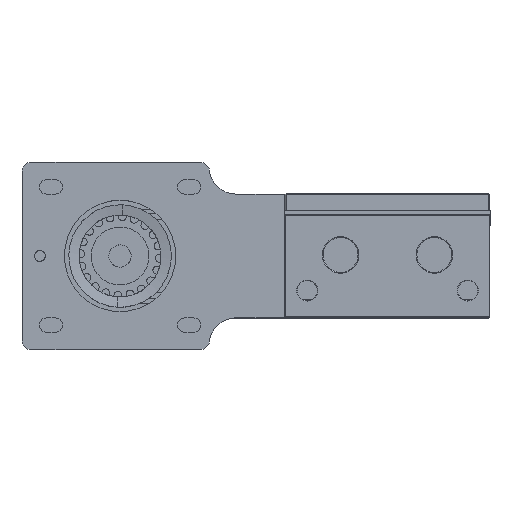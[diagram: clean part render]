
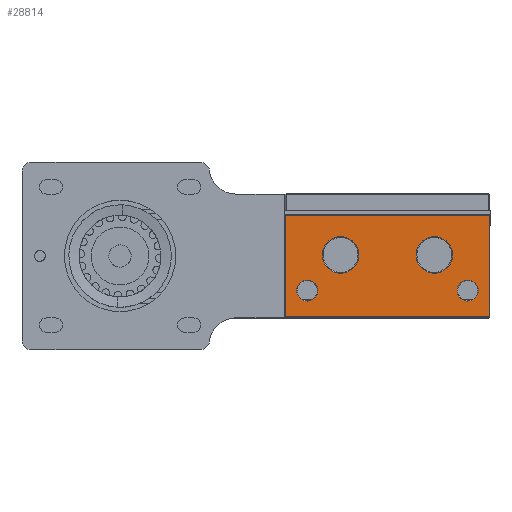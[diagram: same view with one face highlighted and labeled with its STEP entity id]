
A CAD part, top view. The second image highlights one B-rep face of the part: STEP entity #28814.
In plain terms, the highlighted planar face has unit normal (0, 0, 1).
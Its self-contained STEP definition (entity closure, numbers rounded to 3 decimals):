
#166 = AXIS2_PLACEMENT_3D ( 'NONE', #21744, #70114, #28726 ) ;
#881 = DIRECTION ( 'NONE',  ( -1., 0., 0. ) ) ;
#934 = VECTOR ( 'NONE', #63925, 1000. ) ;
#1689 = DIRECTION ( 'NONE',  ( 0., 0., -1. ) ) ;
#1759 = CARTESIAN_POINT ( 'NONE',  ( 18., 6., 134. ) ) ;
#2442 = AXIS2_PLACEMENT_3D ( 'NONE', #61873, #20404, #68748 ) ;
#2953 = CARTESIAN_POINT ( 'NONE',  ( -22.9, 22.9, 134. ) ) ;
#3154 = FACE_BOUND ( 'NONE', #15725, .T. ) ;
#3939 = EDGE_CURVE ( 'NONE', #79689, #40994, #37863, .T. ) ;
#5758 = VERTEX_POINT ( 'NONE', #64883 ) ;
#6315 = DIRECTION ( 'NONE',  ( 0., 0., -1. ) ) ;
#6466 = DIRECTION ( 'NONE',  ( 0., -1., 0. ) ) ;
#8748 = DIRECTION ( 'NONE',  ( -1., 0., 0. ) ) ;
#9223 = CARTESIAN_POINT ( 'NONE',  ( -22.9, 0.1, 134. ) ) ;
#9787 = ORIENTED_EDGE ( 'NONE', *, *, #25403, .T. ) ;
#11479 = CARTESIAN_POINT ( 'NONE',  ( -14.6, 14., 134. ) ) ;
#12789 = CIRCLE ( 'NONE', #65763, 4.1 ) ;
#15529 = CARTESIAN_POINT ( 'NONE',  ( -23., 22.9, 134. ) ) ;
#15725 = EDGE_LOOP ( 'NONE', ( #55821, #67135 ) ) ;
#16788 = ORIENTED_EDGE ( 'NONE', *, *, #46517, .T. ) ;
#16829 = CIRCLE ( 'NONE', #36669, 4.1 ) ;
#17140 = EDGE_CURVE ( 'NONE', #73987, #33271, #57789, .T. ) ;
#17289 = FACE_BOUND ( 'NONE', #55793, .T. ) ;
#18242 = LINE ( 'NONE', #25955, #34539 ) ;
#18604 = LINE ( 'NONE', #69072, #71591 ) ;
#20404 = DIRECTION ( 'NONE',  ( 0., 0., -1. ) ) ;
#21103 = ORIENTED_EDGE ( 'NONE', *, *, #74679, .T. ) ;
#21744 = CARTESIAN_POINT ( 'NONE',  ( -18., 6., 134. ) ) ;
#21762 = ORIENTED_EDGE ( 'NONE', *, *, #26811, .T. ) ;
#22167 = EDGE_CURVE ( 'NONE', #50779, #47584, #18242, .T. ) ;
#24496 = CARTESIAN_POINT ( 'NONE',  ( -18., 6., 134. ) ) ;
#25403 = EDGE_CURVE ( 'NONE', #33271, #73987, #54520, .T. ) ;
#25955 = CARTESIAN_POINT ( 'NONE',  ( 23., 0.1, 134. ) ) ;
#26040 = CARTESIAN_POINT ( 'NONE',  ( 18., 6., 134. ) ) ;
#26811 = EDGE_CURVE ( 'NONE', #40994, #50779, #18604, .T. ) ;
#27603 = CARTESIAN_POINT ( 'NONE',  ( 10.5, 14., 134. ) ) ;
#27998 = CARTESIAN_POINT ( 'NONE',  ( -6.4, 14., 134. ) ) ;
#28512 = PLANE ( 'NONE',  #41722 ) ;
#28726 = DIRECTION ( 'NONE',  ( -1., 0., 0. ) ) ;
#28814 = ADVANCED_FACE ( 'NONE', ( #17289, #70297, #3154, #88654, #51993 ), #28512, .F. ) ;
#31119 = CARTESIAN_POINT ( 'NONE',  ( 20.35, 6., 134. ) ) ;
#31481 = DIRECTION ( 'NONE',  ( -1., 0., 0. ) ) ;
#33021 = DIRECTION ( 'NONE',  ( -1., 0., 0. ) ) ;
#33271 = VERTEX_POINT ( 'NONE', #76238 ) ;
#34539 = VECTOR ( 'NONE', #81254, 1000. ) ;
#34587 = DIRECTION ( 'NONE',  ( -1., 0., 0. ) ) ;
#36669 = AXIS2_PLACEMENT_3D ( 'NONE', #43295, #1689, #50245 ) ;
#36823 = EDGE_CURVE ( 'NONE', #70399, #49054, #51049, .T. ) ;
#37863 = LINE ( 'NONE', #15529, #934 ) ;
#38167 = ORIENTED_EDGE ( 'NONE', *, *, #3939, .T. ) ;
#38534 = VERTEX_POINT ( 'NONE', #38701 ) ;
#38701 = CARTESIAN_POINT ( 'NONE',  ( -20.35, 6., 134. ) ) ;
#40994 = VERTEX_POINT ( 'NONE', #2953 ) ;
#41722 = AXIS2_PLACEMENT_3D ( 'NONE', #42196, #42488, #881 ) ;
#42196 = CARTESIAN_POINT ( 'NONE',  ( -23., 0., 134. ) ) ;
#42488 = DIRECTION ( 'NONE',  ( 0., 0., -1. ) ) ;
#43259 = CARTESIAN_POINT ( 'NONE',  ( 22.9, 0.1, 134. ) ) ;
#43295 = CARTESIAN_POINT ( 'NONE',  ( -10.5, 14., 134. ) ) ;
#45109 = CARTESIAN_POINT ( 'NONE',  ( 22.9, 23., 134. ) ) ;
#45393 = ORIENTED_EDGE ( 'NONE', *, *, #17140, .T. ) ;
#46091 = EDGE_CURVE ( 'NONE', #49054, #70399, #16829, .T. ) ;
#46458 = CARTESIAN_POINT ( 'NONE',  ( 22.9, 22.9, 134. ) ) ;
#46517 = EDGE_CURVE ( 'NONE', #5758, #63438, #84933, .T. ) ;
#47527 = CARTESIAN_POINT ( 'NONE',  ( 14.6, 14., 134. ) ) ;
#47584 = VERTEX_POINT ( 'NONE', #43259 ) ;
#47870 = CARTESIAN_POINT ( 'NONE',  ( 10.5, 14., 134. ) ) ;
#47991 = CARTESIAN_POINT ( 'NONE',  ( -15.65, 6., 134. ) ) ;
#48494 = EDGE_CURVE ( 'NONE', #38534, #69751, #77469, .T. ) ;
#49054 = VERTEX_POINT ( 'NONE', #27998 ) ;
#50245 = DIRECTION ( 'NONE',  ( -1., 0., 0. ) ) ;
#50306 = DIRECTION ( 'NONE',  ( 0., 0., -1. ) ) ;
#50779 = VERTEX_POINT ( 'NONE', #9223 ) ;
#51049 = CIRCLE ( 'NONE', #2442, 4.1 ) ;
#51993 = FACE_OUTER_BOUND ( 'NONE', #61618, .T. ) ;
#52075 = DIRECTION ( 'NONE',  ( 0., 1., 0. ) ) ;
#53492 = AXIS2_PLACEMENT_3D ( 'NONE', #27603, #75992, #34587 ) ;
#53730 = ORIENTED_EDGE ( 'NONE', *, *, #56330, .T. ) ;
#54271 = ORIENTED_EDGE ( 'NONE', *, *, #22167, .T. ) ;
#54520 = CIRCLE ( 'NONE', #66383, 2.35 ) ;
#54533 = CIRCLE ( 'NONE', #166, 2.35 ) ;
#54806 = DIRECTION ( 'NONE',  ( -1., 0., 0. ) ) ;
#55793 = EDGE_LOOP ( 'NONE', ( #21103, #16788 ) ) ;
#55821 = ORIENTED_EDGE ( 'NONE', *, *, #59334, .T. ) ;
#56330 = EDGE_CURVE ( 'NONE', #47584, #79689, #81045, .T. ) ;
#57789 = CIRCLE ( 'NONE', #64241, 2.35 ) ;
#59334 = EDGE_CURVE ( 'NONE', #69751, #38534, #54533, .T. ) ;
#61618 = EDGE_LOOP ( 'NONE', ( #38167, #21762, #54271, #53730 ) ) ;
#61620 = EDGE_LOOP ( 'NONE', ( #45393, #9787 ) ) ;
#61873 = CARTESIAN_POINT ( 'NONE',  ( -10.5, 14., 134. ) ) ;
#62680 = VECTOR ( 'NONE', #52075, 1000. ) ;
#63438 = VERTEX_POINT ( 'NONE', #47527 ) ;
#63925 = DIRECTION ( 'NONE',  ( -1., 0., 0. ) ) ;
#64241 = AXIS2_PLACEMENT_3D ( 'NONE', #26040, #74425, #33021 ) ;
#64883 = CARTESIAN_POINT ( 'NONE',  ( 6.4, 14., 134. ) ) ;
#65763 = AXIS2_PLACEMENT_3D ( 'NONE', #47870, #6315, #54806 ) ;
#66383 = AXIS2_PLACEMENT_3D ( 'NONE', #1759, #50306, #8748 ) ;
#67135 = ORIENTED_EDGE ( 'NONE', *, *, #48494, .T. ) ;
#68748 = DIRECTION ( 'NONE',  ( -1., 0., 0. ) ) ;
#69072 = CARTESIAN_POINT ( 'NONE',  ( -22.9, 0., 134. ) ) ;
#69751 = VERTEX_POINT ( 'NONE', #47991 ) ;
#70114 = DIRECTION ( 'NONE',  ( 0., 0., -1. ) ) ;
#70220 = ORIENTED_EDGE ( 'NONE', *, *, #36823, .T. ) ;
#70297 = FACE_BOUND ( 'NONE', #80129, .T. ) ;
#70399 = VERTEX_POINT ( 'NONE', #11479 ) ;
#71591 = VECTOR ( 'NONE', #6466, 1000. ) ;
#72858 = DIRECTION ( 'NONE',  ( 0., 0., -1. ) ) ;
#73987 = VERTEX_POINT ( 'NONE', #31119 ) ;
#74425 = DIRECTION ( 'NONE',  ( 0., 0., -1. ) ) ;
#74679 = EDGE_CURVE ( 'NONE', #63438, #5758, #12789, .T. ) ;
#75992 = DIRECTION ( 'NONE',  ( 0., 0., -1. ) ) ;
#76238 = CARTESIAN_POINT ( 'NONE',  ( 15.65, 6., 134. ) ) ;
#77469 = CIRCLE ( 'NONE', #78518, 2.35 ) ;
#78518 = AXIS2_PLACEMENT_3D ( 'NONE', #24496, #72858, #31481 ) ;
#79689 = VERTEX_POINT ( 'NONE', #46458 ) ;
#80129 = EDGE_LOOP ( 'NONE', ( #87959, #70220 ) ) ;
#81045 = LINE ( 'NONE', #45109, #62680 ) ;
#81254 = DIRECTION ( 'NONE',  ( 1., 0., 0. ) ) ;
#84933 = CIRCLE ( 'NONE', #53492, 4.1 ) ;
#87959 = ORIENTED_EDGE ( 'NONE', *, *, #46091, .T. ) ;
#88654 = FACE_BOUND ( 'NONE', #61620, .T. ) ;
